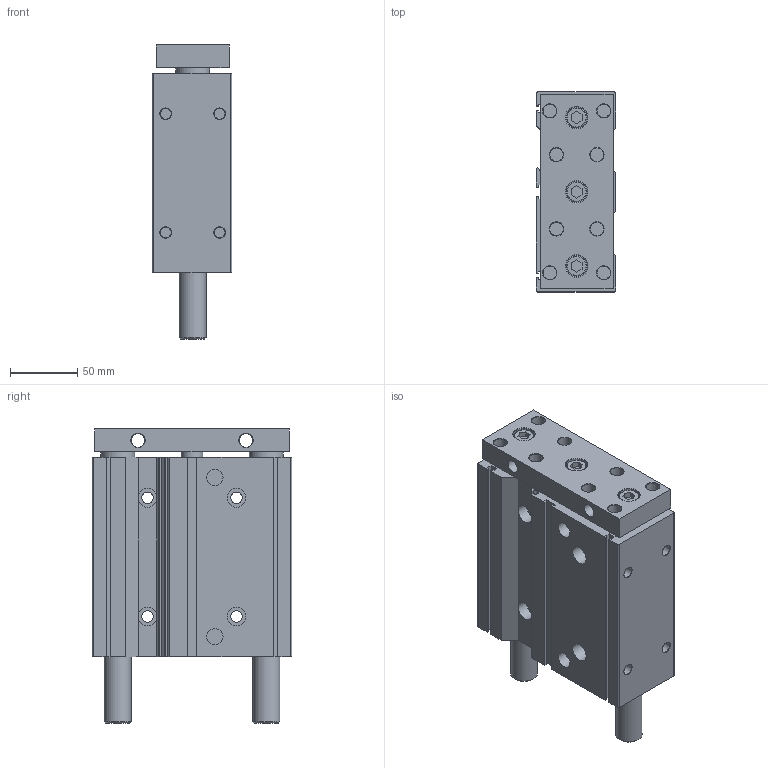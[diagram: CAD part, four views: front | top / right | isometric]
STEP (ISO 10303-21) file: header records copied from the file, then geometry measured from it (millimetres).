
FILE_DESCRIPTION((''),'2;1');
FILE_NAME('I:\3D電子目錄\氣缸\TB(U)\TB(U)50\TB50(U)\TB(U)50x100.stp','2007-08-06T09:22:24',('Administrator'),(''),'Autodesk Inventor 2008','Autodesk Inventor 2008','');
FILE_SCHEMA(('AUTOMOTIVE_DESIGN { 1 0 10303 214 1 1 1 1 }'));
Length unit declared in the file: millimetre
Products named in the file (1): TB(U)50X100
Bounding box: 59 x 148 x 218 mm (x, y, z)
Volume: 1291712.6 mm3; surface area: 136823.7 mm2
Topology: 1 solids, 1 shells, 206 faces, 460 edges, 292 vertices
Faces by surface type: plane 106, cylinder 52, cone 37, bspline 8, torus 3
Full cylindrical faces by diameter (mm): 8 x4, 8.5 x4, 10 x18, 12 x2, 14 x4, 15 x3, 16 x4, 20 x2, 25 x2, 32 x2, 52 x1
Entity records: 5360 total; most frequent: CARTESIAN_POINT 945, DIRECTION 920, ORIENTED_EDGE 736, EDGE_CURVE 368, EDGE_LOOP 364, AXIS2_PLACEMENT_3D 353, VERTEX_POINT 290, VECTOR 214
